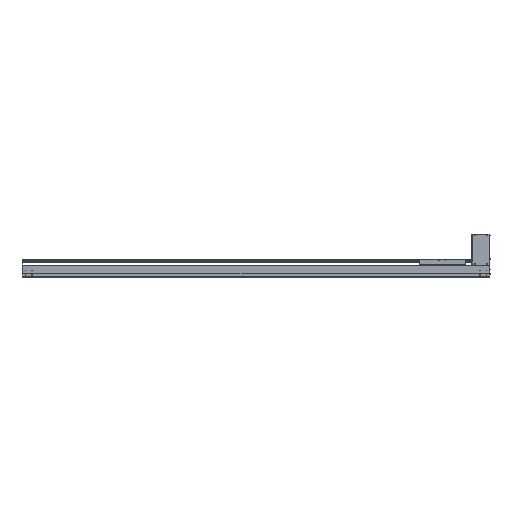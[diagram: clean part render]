
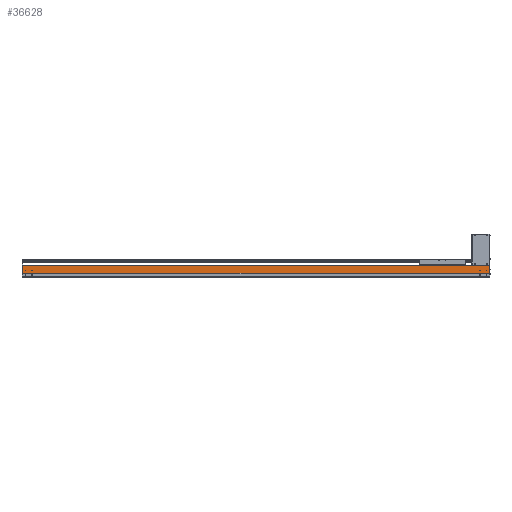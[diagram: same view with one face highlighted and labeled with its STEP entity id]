
A CAD part, top view. The second image highlights one B-rep face of the part: STEP entity #36628.
In plain terms, the highlighted planar face has unit normal (0, 0, 1).
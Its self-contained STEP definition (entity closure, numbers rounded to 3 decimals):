
#9464=DIRECTION('',(-1.,-0.006,-0.017));
#9465=VECTOR('',#9464,1.5);
#9466=CARTESIAN_POINT('',(1.5,94.,107.));
#9467=LINE('',#9466,#9465);
#9468=DIRECTION('',(-1.,0.,0.));
#9469=VECTOR('',#9468,3548.5);
#9470=CARTESIAN_POINT('',(0.,93.5,107.));
#9471=LINE('',#9470,#9469);
#9496=CARTESIAN_POINT('',(0.,93.992,106.974));
#9497=CARTESIAN_POINT('',(0.,93.906,
106.974));
#9498=CARTESIAN_POINT('',(0.,93.75,
107.013));
#9499=CARTESIAN_POINT('',(0.,93.581,107.));
#9500=CARTESIAN_POINT('',(0.,93.5,107.));
#9502=CARTESIAN_POINT('',(-3523.5,54.,107.));
#9503=DIRECTION('',(0.,0.,-1.));
#9504=DIRECTION('',(1.,0.,0.));
#9505=AXIS2_PLACEMENT_3D('',#9502,#9503,#9504);
#9507=CARTESIAN_POINT('',(-3523.5,54.,107.));
#9508=DIRECTION('',(0.,0.,-1.));
#9509=DIRECTION('',(-1.,0.,0.));
#9510=AXIS2_PLACEMENT_3D('',#9507,#9508,#9509);
#9512=CARTESIAN_POINT('',(-3473.5,54.,107.));
#9513=DIRECTION('',(0.,0.,-1.));
#9514=DIRECTION('',(1.,0.,0.));
#9515=AXIS2_PLACEMENT_3D('',#9512,#9513,#9514);
#9517=CARTESIAN_POINT('',(-3473.5,54.,107.));
#9518=DIRECTION('',(0.,0.,-1.));
#9519=DIRECTION('',(-1.,0.,0.));
#9520=AXIS2_PLACEMENT_3D('',#9517,#9518,#9519);
#9522=CARTESIAN_POINT('',(-23.5,54.,107.));
#9523=DIRECTION('',(0.,0.,-1.));
#9524=DIRECTION('',(1.,0.,0.));
#9525=AXIS2_PLACEMENT_3D('',#9522,#9523,#9524);
#9527=CARTESIAN_POINT('',(-23.5,54.,107.));
#9528=DIRECTION('',(0.,0.,-1.));
#9529=DIRECTION('',(-1.,0.,0.));
#9530=AXIS2_PLACEMENT_3D('',#9527,#9528,#9529);
#9532=CARTESIAN_POINT('',(-73.5,54.,107.));
#9533=DIRECTION('',(0.,0.,-1.));
#9534=DIRECTION('',(1.,0.,0.));
#9535=AXIS2_PLACEMENT_3D('',#9532,#9533,#9534);
#9537=CARTESIAN_POINT('',(-73.5,54.,107.));
#9538=DIRECTION('',(0.,0.,-1.));
#9539=DIRECTION('',(-1.,0.,0.));
#9540=AXIS2_PLACEMENT_3D('',#9537,#9538,#9539);
#9542=DIRECTION('',(0.,-1.,0.));
#9543=VECTOR('',#9542,2.55);
#9544=CARTESIAN_POINT('',(-3546.5,34.65,107.));
#9545=LINE('',#9544,#9543);
#9546=DIRECTION('',(0.,-1.,0.));
#9547=VECTOR('',#9546,58.85);
#9548=CARTESIAN_POINT('',(-3548.5,93.5,107.));
#9549=LINE('',#9548,#9547);
#9550=DIRECTION('',(0.,1.,0.));
#9551=VECTOR('',#9550,58.35);
#9552=CARTESIAN_POINT('',(1.5,35.65,107.));
#9553=LINE('',#9552,#9551);
#9554=DIRECTION('',(0.,1.,0.));
#9555=VECTOR('',#9554,3.55);
#9556=CARTESIAN_POINT('',(0.,32.1,107.));
#9557=LINE('',#9556,#9555);
#9558=DIRECTION('',(1.,0.,0.));
#9559=VECTOR('',#9558,3546.5);
#9560=CARTESIAN_POINT('',(-3546.5,32.1,107.));
#9561=LINE('',#9560,#9559);
#9670=DIRECTION('',(1.,0.,0.));
#9671=VECTOR('',#9670,2.);
#9672=CARTESIAN_POINT('',(-3548.5,34.65,107.));
#9673=LINE('',#9672,#9671);
#9694=DIRECTION('',(1.,0.,0.));
#9695=VECTOR('',#9694,1.5);
#9696=CARTESIAN_POINT('',(0.,35.65,107.));
#9697=LINE('',#9696,#9695);
#20986=CARTESIAN_POINT('',(1.5,94.,107.));
#20987=VERTEX_POINT('',#20986);
#20988=CARTESIAN_POINT('',(1.5,35.65,107.));
#20989=VERTEX_POINT('',#20988);
#21058=CARTESIAN_POINT('',(-3548.5,34.65,107.));
#21059=VERTEX_POINT('',#21058);
#21060=CARTESIAN_POINT('',(-3548.5,93.5,107.));
#21061=VERTEX_POINT('',#21060);
#21286=CARTESIAN_POINT('',(-3546.5,32.1,107.));
#21287=VERTEX_POINT('',#21286);
#21337=CARTESIAN_POINT('',(0.,32.1,107.));
#21339=VERTEX_POINT('',#21337);
#22112=CARTESIAN_POINT('',(-3521.,54.,107.));
#22113=CARTESIAN_POINT('',(-3526.,54.,107.));
#22114=VERTEX_POINT('',#22112);
#22115=VERTEX_POINT('',#22113);
#22116=CARTESIAN_POINT('',(-3471.,54.,107.));
#22117=CARTESIAN_POINT('',(-3476.,54.,107.));
#22118=VERTEX_POINT('',#22116);
#22119=VERTEX_POINT('',#22117);
#22120=CARTESIAN_POINT('',(-21.,54.,107.));
#22121=CARTESIAN_POINT('',(-26.,54.,107.));
#22122=VERTEX_POINT('',#22120);
#22123=VERTEX_POINT('',#22121);
#22124=CARTESIAN_POINT('',(-71.,54.,107.));
#22125=CARTESIAN_POINT('',(-76.,54.,107.));
#22126=VERTEX_POINT('',#22124);
#22127=VERTEX_POINT('',#22125);
#24898=CARTESIAN_POINT('',(0.,35.65,107.));
#24899=VERTEX_POINT('',#24898);
#25032=VERTEX_POINT('',#9496);
#25033=VERTEX_POINT('',#9500);
#25489=CARTESIAN_POINT('',(-3546.5,34.65,107.));
#25490=VERTEX_POINT('',#25489);
#36584=CARTESIAN_POINT('',(-1773.25,62.8,107.));
#36585=DIRECTION('',(0.,0.,1.));
#36586=DIRECTION('',(0.,-1.,0.));
#36587=AXIS2_PLACEMENT_3D('',#36584,#36585,#36586);
#36588=PLANE('',#36587);
#36589=ORIENTED_EDGE('',*,*,#27386,.F.);
#36591=ORIENTED_EDGE('',*,*,#36590,.F.);
#36592=ORIENTED_EDGE('',*,*,#29684,.F.);
#36593=ORIENTED_EDGE('',*,*,#36570,.F.);
#36594=ORIENTED_EDGE('',*,*,#36579,.F.);
#36595=ORIENTED_EDGE('',*,*,#36560,.F.);
#36596=ORIENTED_EDGE('',*,*,#26314,.F.);
#36598=ORIENTED_EDGE('',*,*,#36597,.F.);
#36599=ORIENTED_EDGE('',*,*,#28143,.F.);
#36601=ORIENTED_EDGE('',*,*,#36600,.F.);
#36602=EDGE_LOOP('',(#36589,#36591,#36592,#36593,#36594,#36595,#36596,#36598,
#36599,#36601));
#36603=FACE_OUTER_BOUND('',#36602,.F.);
#36605=ORIENTED_EDGE('',*,*,#36604,.F.);
#36607=ORIENTED_EDGE('',*,*,#36606,.F.);
#36608=EDGE_LOOP('',(#36605,#36607));
#36609=FACE_BOUND('',#36608,.F.);
#36611=ORIENTED_EDGE('',*,*,#36610,.F.);
#36613=ORIENTED_EDGE('',*,*,#36612,.F.);
#36614=EDGE_LOOP('',(#36611,#36613));
#36615=FACE_BOUND('',#36614,.F.);
#36617=ORIENTED_EDGE('',*,*,#36616,.F.);
#36619=ORIENTED_EDGE('',*,*,#36618,.F.);
#36620=EDGE_LOOP('',(#36617,#36619));
#36621=FACE_BOUND('',#36620,.F.);
#36623=ORIENTED_EDGE('',*,*,#36622,.F.);
#36625=ORIENTED_EDGE('',*,*,#36624,.F.);
#36626=EDGE_LOOP('',(#36623,#36625));
#36627=FACE_BOUND('',#36626,.F.);
#36628=ADVANCED_FACE('',(#36603,#36609,#36615,#36621,#36627),#36588,.T.);
#9501=B_SPLINE_CURVE_WITH_KNOTS('',3,(#9496,#9497,#9498,#9499,#9500),
.UNSPECIFIED.,.F.,.F.,(4,1,4),(0.,0.5,1.),.UNSPECIFIED.);
#9506=CIRCLE('',#9505,2.5);
#9511=CIRCLE('',#9510,2.5);
#9516=CIRCLE('',#9515,2.5);
#9521=CIRCLE('',#9520,2.5);
#9526=CIRCLE('',#9525,2.5);
#9531=CIRCLE('',#9530,2.5);
#9536=CIRCLE('',#9535,2.5);
#9541=CIRCLE('',#9540,2.5);
#26314=EDGE_CURVE('',#20989,#20987,#9553,.T.);
#27386=EDGE_CURVE('',#25490,#21287,#9545,.T.);
#28143=EDGE_CURVE('',#21339,#24899,#9557,.T.);
#29684=EDGE_CURVE('',#21061,#21059,#9549,.T.);
#36560=EDGE_CURVE('',#20987,#25032,#9467,.T.);
#36570=EDGE_CURVE('',#25033,#21061,#9471,.T.);
#36579=EDGE_CURVE('',#25032,#25033,#9501,.T.);
#36590=EDGE_CURVE('',#21059,#25490,#9673,.T.);
#36597=EDGE_CURVE('',#24899,#20989,#9697,.T.);
#36600=EDGE_CURVE('',#21287,#21339,#9561,.T.);
#36604=EDGE_CURVE('',#22118,#22119,#9516,.T.);
#36606=EDGE_CURVE('',#22119,#22118,#9521,.T.);
#36610=EDGE_CURVE('',#22122,#22123,#9526,.T.);
#36612=EDGE_CURVE('',#22123,#22122,#9531,.T.);
#36616=EDGE_CURVE('',#22126,#22127,#9536,.T.);
#36618=EDGE_CURVE('',#22127,#22126,#9541,.T.);
#36622=EDGE_CURVE('',#22114,#22115,#9506,.T.);
#36624=EDGE_CURVE('',#22115,#22114,#9511,.T.);
